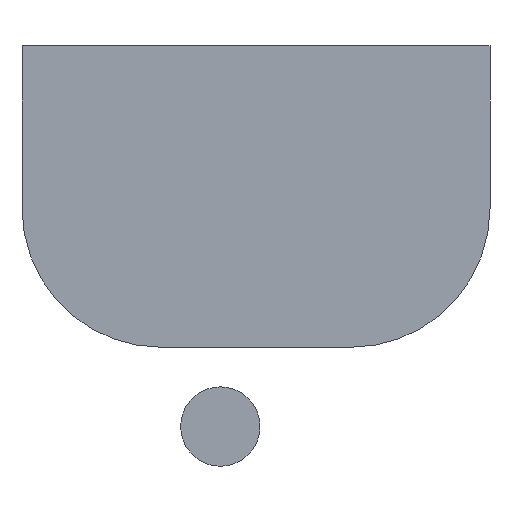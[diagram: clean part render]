
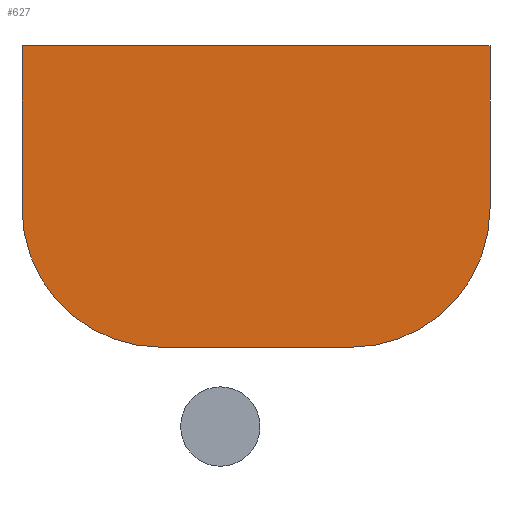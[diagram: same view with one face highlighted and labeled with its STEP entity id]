
A CAD part, front view. The second image highlights one B-rep face of the part: STEP entity #627.
In plain terms, the highlighted planar face has unit normal (0, -1, 0).
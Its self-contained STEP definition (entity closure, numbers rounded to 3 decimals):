
#37=CIRCLE('',#664,17.5);
#39=CIRCLE('',#668,17.5);
#95=FACE_OUTER_BOUND('',#136,.T.);
#136=EDGE_LOOP('',(#533,#534,#535,#536,#537,#538));
#162=LINE('',#948,#219);
#166=LINE('',#957,#223);
#168=LINE('',#966,#225);
#171=LINE('',#972,#228);
#219=VECTOR('',#754,10.);
#223=VECTOR('',#764,10.);
#225=VECTOR('',#774,10.);
#228=VECTOR('',#781,10.);
#275=VERTEX_POINT('',#945);
#276=VERTEX_POINT('',#947);
#277=VERTEX_POINT('',#951);
#278=VERTEX_POINT('',#955);
#280=VERTEX_POINT('',#961);
#281=VERTEX_POINT('',#965);
#334=EDGE_CURVE('',#276,#275,#162,.T.);
#337=EDGE_CURVE('',#277,#275,#37,.T.);
#339=EDGE_CURVE('',#277,#278,#166,.T.);
#342=EDGE_CURVE('',#280,#278,#39,.T.);
#343=EDGE_CURVE('',#281,#276,#168,.T.);
#347=EDGE_CURVE('',#280,#281,#171,.T.);
#533=ORIENTED_EDGE('',*,*,#337,.F.);
#534=ORIENTED_EDGE('',*,*,#339,.T.);
#535=ORIENTED_EDGE('',*,*,#342,.F.);
#536=ORIENTED_EDGE('',*,*,#347,.T.);
#537=ORIENTED_EDGE('',*,*,#343,.T.);
#538=ORIENTED_EDGE('',*,*,#334,.T.);
#593=PLANE('',#702);
#627=ADVANCED_FACE('',(#95),#593,.F.);
#664=AXIS2_PLACEMENT_3D('',#953,#759,#760);
#668=AXIS2_PLACEMENT_3D('',#963,#770,#771);
#702=AXIS2_PLACEMENT_3D('',#1063,#869,#870);
#754=DIRECTION('',(0.,0.,-1.));
#759=DIRECTION('center_axis',(0.,1.,0.));
#760=DIRECTION('ref_axis',(-0.707,0.,-0.707));
#764=DIRECTION('',(1.,0.,0.));
#770=DIRECTION('center_axis',(0.,1.,0.));
#771=DIRECTION('ref_axis',(0.707,0.,-0.707));
#774=DIRECTION('',(-1.,0.,0.));
#781=DIRECTION('',(0.,0.,1.));
#869=DIRECTION('center_axis',(0.,1.,0.));
#870=DIRECTION('ref_axis',(1.,0.,0.));
#945=CARTESIAN_POINT('',(-5.,0.,12.5));
#947=CARTESIAN_POINT('',(-5.,0.,33.));
#948=CARTESIAN_POINT('',(-5.,0.,7.));
#951=CARTESIAN_POINT('',(12.5,0.,-5.));
#953=CARTESIAN_POINT('Origin',(12.5,0.,12.5));
#955=CARTESIAN_POINT('',(36.5,0.,-5.));
#957=CARTESIAN_POINT('',(36.75,0.,-5.));
#961=CARTESIAN_POINT('',(54.,0.,12.5));
#963=CARTESIAN_POINT('Origin',(36.5,0.,12.5));
#965=CARTESIAN_POINT('',(54.,0.,33.));
#966=CARTESIAN_POINT('',(12.25,0.,33.));
#972=CARTESIAN_POINT('',(54.,0.,21.));
#1063=CARTESIAN_POINT('Origin',(24.5,0.,14.));
